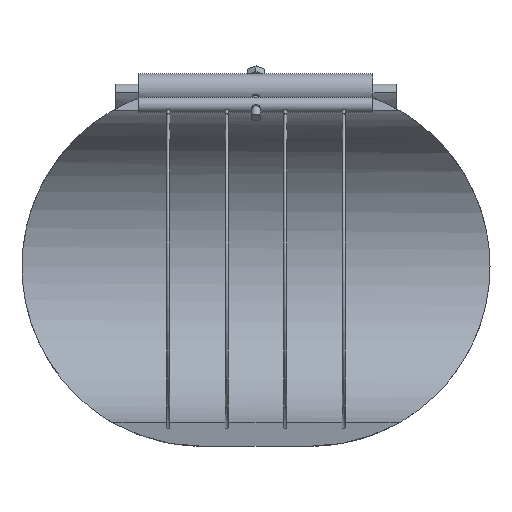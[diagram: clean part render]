
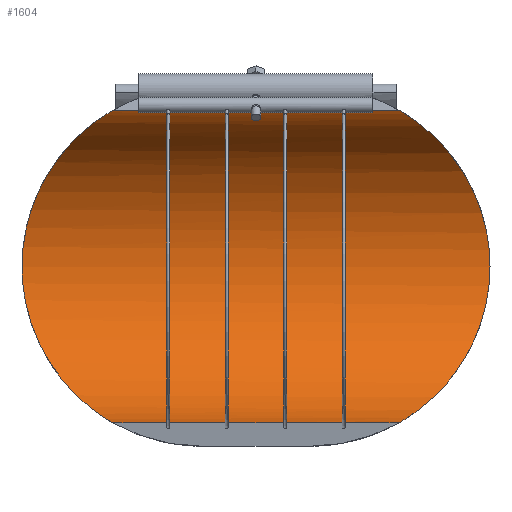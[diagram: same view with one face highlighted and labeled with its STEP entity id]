
A CAD part, front view. The second image highlights one B-rep face of the part: STEP entity #1604.
In plain terms, the highlighted cylindrical face has radius 100 mm (diameter 200 mm), a partial arc.
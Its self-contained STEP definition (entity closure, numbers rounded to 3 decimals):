
#151=FACE_OUTER_BOUND('',#245,.T.);
#245=EDGE_LOOP('',(#1347,#1348,#1349,#1350,#1351,#1352,#1353,#1354,#1355,
#1356));
#332=B_SPLINE_CURVE_WITH_KNOTS('',3,(#3347,#3348,#3349,#3350,#3351,#3352,
#3353,#3354,#3355,#3356,#3357,#3358,#3359,#3360,#3361,#3362,#3363,#3364),
 .UNSPECIFIED.,.F.,.F.,(4,2,2,2,2,2,2,2,4),(35.126,35.467,
37.616,39.764,41.913,43.929,45.945,
47.961,49.977),.UNSPECIFIED.);
#333=B_SPLINE_CURVE_WITH_KNOTS('',3,(#3365,#3366,#3367,#3368,#3369,#3370,
#3371,#3372,#3373,#3374,#3375,#3376,#3377,#3378,#3379,#3380,#3381,#3382),
 .UNSPECIFIED.,.F.,.F.,(4,2,2,2,2,2,2,2,4),(49.977,51.993,
54.009,56.025,58.041,60.19,62.339,
64.487,64.828),.UNSPECIFIED.);
#338=B_SPLINE_CURVE_WITH_KNOTS('',3,(#3494,#3495,#3496,#3497,#3498,#3499,
#3500,#3501,#3502,#3503,#3504,#3505,#3506,#3507,#3508,#3509,#3510,#3511),
 .UNSPECIFIED.,.F.,.F.,(4,2,2,2,2,2,2,2,4),(1.808,2.149,
4.298,6.446,8.595,10.611,12.627,
14.643,16.659),.UNSPECIFIED.);
#339=B_SPLINE_CURVE_WITH_KNOTS('',3,(#3513,#3514,#3515,#3516,#3517,#3518,
#3519,#3520,#3521,#3522,#3523,#3524,#3525,#3526,#3527,#3528,#3529,#3530),
 .UNSPECIFIED.,.F.,.F.,(4,2,2,2,2,2,2,2,4),(16.659,18.675,
20.691,22.707,24.723,26.872,29.021,
31.169,31.51),.UNSPECIFIED.);
#469=LINE('',#2636,#542);
#470=LINE('',#2639,#543);
#471=LINE('',#2642,#544);
#472=LINE('',#2644,#545);
#473=LINE('',#2645,#546);
#517=LINE('',#3572,#590);
#542=VECTOR('',#1901,10.);
#543=VECTOR('',#1904,10.);
#544=VECTOR('',#1907,10.);
#545=VECTOR('',#1910,10.);
#546=VECTOR('',#1911,10.);
#590=VECTOR('',#2163,10.);
#631=VERTEX_POINT('',#2624);
#633=VERTEX_POINT('',#2629);
#635=VERTEX_POINT('',#2633);
#636=VERTEX_POINT('',#2635);
#637=VERTEX_POINT('',#2638);
#638=VERTEX_POINT('',#2641);
#714=VERTEX_POINT('',#3344);
#715=VERTEX_POINT('',#3346);
#720=VERTEX_POINT('',#3493);
#721=VERTEX_POINT('',#3512);
#809=EDGE_CURVE('',#636,#635,#469,.T.);
#811=EDGE_CURVE('',#637,#636,#470,.T.);
#813=EDGE_CURVE('',#638,#637,#471,.T.);
#815=EDGE_CURVE('',#631,#638,#472,.T.);
#816=EDGE_CURVE('',#633,#631,#473,.T.);
#940=EDGE_CURVE('',#714,#715,#332,.T.);
#941=EDGE_CURVE('',#715,#635,#333,.T.);
#946=EDGE_CURVE('',#633,#720,#338,.T.);
#947=EDGE_CURVE('',#720,#721,#339,.T.);
#951=EDGE_CURVE('',#714,#721,#517,.T.);
#1347=ORIENTED_EDGE('',*,*,#946,.F.);
#1348=ORIENTED_EDGE('',*,*,#816,.T.);
#1349=ORIENTED_EDGE('',*,*,#815,.T.);
#1350=ORIENTED_EDGE('',*,*,#813,.T.);
#1351=ORIENTED_EDGE('',*,*,#811,.T.);
#1352=ORIENTED_EDGE('',*,*,#809,.T.);
#1353=ORIENTED_EDGE('',*,*,#941,.F.);
#1354=ORIENTED_EDGE('',*,*,#940,.F.);
#1355=ORIENTED_EDGE('',*,*,#951,.T.);
#1356=ORIENTED_EDGE('',*,*,#947,.F.);
#1533=CYLINDRICAL_SURFACE('',#1776,100.);
#1604=ADVANCED_FACE('',(#151),#1533,.F.);
#1776=AXIS2_PLACEMENT_3D('',#3571,#2161,#2162);
#1901=DIRECTION('',(1.,0.,0.));
#1904=DIRECTION('',(1.,0.,0.));
#1907=DIRECTION('',(1.,0.,0.));
#1910=DIRECTION('',(1.,0.,0.));
#1911=DIRECTION('',(1.,0.,0.));
#2161=DIRECTION('center_axis',(1.,0.,0.));
#2162=DIRECTION('ref_axis',(0.,1.,0.));
#2163=DIRECTION('',(-1.,0.,0.));
#2624=CARTESIAN_POINT('',(-55.313,17.365,-98.481));
#2629=CARTESIAN_POINT('',(-90.173,17.365,-98.481));
#2633=CARTESIAN_POINT('',(90.173,17.365,-98.481));
#2635=CARTESIAN_POINT('',(55.313,17.365,-98.481));
#2636=CARTESIAN_POINT('',(0.,17.365,-98.481));
#2638=CARTESIAN_POINT('',(18.438,17.365,-98.481));
#2639=CARTESIAN_POINT('',(0.,17.365,-98.481));
#2641=CARTESIAN_POINT('',(-18.438,17.365,-98.481));
#2642=CARTESIAN_POINT('',(0.,17.365,-98.481));
#2644=CARTESIAN_POINT('',(0.,17.365,-98.481));
#2645=CARTESIAN_POINT('',(0.,17.365,-98.481));
#3344=CARTESIAN_POINT('',(90.173,17.365,98.481));
#3346=CARTESIAN_POINT('',(147.5,100.,0.));
#3347=CARTESIAN_POINT('Ctrl Pts',(90.173,17.365,98.481));
#3348=CARTESIAN_POINT('Ctrl Pts',(90.499,18.413,98.296));
#3349=CARTESIAN_POINT('Ctrl Pts',(90.849,19.454,98.095));
#3350=CARTESIAN_POINT('Ctrl Pts',(93.564,27.003,96.515));
#3351=CARTESIAN_POINT('Ctrl Pts',(96.759,33.233,94.538));
#3352=CARTESIAN_POINT('Ctrl Pts',(103.825,45.143,89.465));
#3353=CARTESIAN_POINT('Ctrl Pts',(107.696,50.811,86.366));
#3354=CARTESIAN_POINT('Ctrl Pts',(115.377,61.393,79.195));
#3355=CARTESIAN_POINT('Ctrl Pts',(119.189,66.301,75.12));
#3356=CARTESIAN_POINT('Ctrl Pts',(126.02,74.847,66.574));
#3357=CARTESIAN_POINT('Ctrl Pts',(129.315,78.838,61.847));
#3358=CARTESIAN_POINT('Ctrl Pts',(135.364,86.036,51.364));
#3359=CARTESIAN_POINT('Ctrl Pts',(138.117,89.243,45.607));
#3360=CARTESIAN_POINT('Ctrl Pts',(142.671,94.505,33.365));
#3361=CARTESIAN_POINT('Ctrl Pts',(144.476,96.564,26.864));
#3362=CARTESIAN_POINT('Ctrl Pts',(146.891,99.312,13.542));
#3363=CARTESIAN_POINT('Ctrl Pts',(147.5,100.,6.72));
#3364=CARTESIAN_POINT('Ctrl Pts',(147.5,100.,0.));
#3365=CARTESIAN_POINT('Ctrl Pts',(147.5,100.,0.));
#3366=CARTESIAN_POINT('Ctrl Pts',(147.5,100.,-6.72));
#3367=CARTESIAN_POINT('Ctrl Pts',(146.891,99.312,-13.542));
#3368=CARTESIAN_POINT('Ctrl Pts',(144.476,96.564,-26.864));
#3369=CARTESIAN_POINT('Ctrl Pts',(142.671,94.505,-33.365));
#3370=CARTESIAN_POINT('Ctrl Pts',(138.117,89.243,-45.607));
#3371=CARTESIAN_POINT('Ctrl Pts',(135.364,86.036,-51.364));
#3372=CARTESIAN_POINT('Ctrl Pts',(129.315,78.838,-61.847));
#3373=CARTESIAN_POINT('Ctrl Pts',(126.02,74.847,-66.574));
#3374=CARTESIAN_POINT('Ctrl Pts',(119.189,66.301,-75.12));
#3375=CARTESIAN_POINT('Ctrl Pts',(115.377,61.393,-79.195));
#3376=CARTESIAN_POINT('Ctrl Pts',(107.696,50.811,-86.366));
#3377=CARTESIAN_POINT('Ctrl Pts',(103.825,45.143,-89.465));
#3378=CARTESIAN_POINT('Ctrl Pts',(96.759,33.233,-94.538));
#3379=CARTESIAN_POINT('Ctrl Pts',(93.564,27.003,-96.515));
#3380=CARTESIAN_POINT('Ctrl Pts',(90.849,19.454,-98.095));
#3381=CARTESIAN_POINT('Ctrl Pts',(90.499,18.413,-98.296));
#3382=CARTESIAN_POINT('Ctrl Pts',(90.173,17.365,-98.481));
#3493=CARTESIAN_POINT('',(-147.5,100.,0.));
#3494=CARTESIAN_POINT('Ctrl Pts',(-90.173,17.365,-98.481));
#3495=CARTESIAN_POINT('Ctrl Pts',(-90.499,18.413,-98.296));
#3496=CARTESIAN_POINT('Ctrl Pts',(-90.849,19.454,-98.095));
#3497=CARTESIAN_POINT('Ctrl Pts',(-93.564,27.003,-96.515));
#3498=CARTESIAN_POINT('Ctrl Pts',(-96.759,33.233,-94.538));
#3499=CARTESIAN_POINT('Ctrl Pts',(-103.825,45.143,-89.465));
#3500=CARTESIAN_POINT('Ctrl Pts',(-107.696,50.811,-86.366));
#3501=CARTESIAN_POINT('Ctrl Pts',(-115.377,61.393,-79.195));
#3502=CARTESIAN_POINT('Ctrl Pts',(-119.189,66.301,-75.12));
#3503=CARTESIAN_POINT('Ctrl Pts',(-126.02,74.847,-66.574));
#3504=CARTESIAN_POINT('Ctrl Pts',(-129.315,78.838,-61.847));
#3505=CARTESIAN_POINT('Ctrl Pts',(-135.364,86.036,-51.364));
#3506=CARTESIAN_POINT('Ctrl Pts',(-138.117,89.243,-45.607));
#3507=CARTESIAN_POINT('Ctrl Pts',(-142.671,94.505,-33.365));
#3508=CARTESIAN_POINT('Ctrl Pts',(-144.476,96.564,-26.864));
#3509=CARTESIAN_POINT('Ctrl Pts',(-146.891,99.312,-13.542));
#3510=CARTESIAN_POINT('Ctrl Pts',(-147.5,100.,-6.72));
#3511=CARTESIAN_POINT('Ctrl Pts',(-147.5,100.,0.));
#3512=CARTESIAN_POINT('',(-90.173,17.365,98.481));
#3513=CARTESIAN_POINT('Ctrl Pts',(-147.5,100.,0.));
#3514=CARTESIAN_POINT('Ctrl Pts',(-147.5,100.,6.72));
#3515=CARTESIAN_POINT('Ctrl Pts',(-146.891,99.312,13.542));
#3516=CARTESIAN_POINT('Ctrl Pts',(-144.476,96.564,26.864));
#3517=CARTESIAN_POINT('Ctrl Pts',(-142.671,94.505,33.365));
#3518=CARTESIAN_POINT('Ctrl Pts',(-138.117,89.243,45.607));
#3519=CARTESIAN_POINT('Ctrl Pts',(-135.364,86.036,51.364));
#3520=CARTESIAN_POINT('Ctrl Pts',(-129.315,78.838,61.847));
#3521=CARTESIAN_POINT('Ctrl Pts',(-126.02,74.847,66.574));
#3522=CARTESIAN_POINT('Ctrl Pts',(-119.189,66.301,75.12));
#3523=CARTESIAN_POINT('Ctrl Pts',(-115.377,61.393,79.195));
#3524=CARTESIAN_POINT('Ctrl Pts',(-107.696,50.811,86.366));
#3525=CARTESIAN_POINT('Ctrl Pts',(-103.825,45.143,89.465));
#3526=CARTESIAN_POINT('Ctrl Pts',(-96.759,33.233,94.538));
#3527=CARTESIAN_POINT('Ctrl Pts',(-93.564,27.003,96.515));
#3528=CARTESIAN_POINT('Ctrl Pts',(-90.849,19.454,98.095));
#3529=CARTESIAN_POINT('Ctrl Pts',(-90.499,18.413,98.296));
#3530=CARTESIAN_POINT('Ctrl Pts',(-90.173,17.365,98.481));
#3571=CARTESIAN_POINT('Origin',(0.,0.,0.));
#3572=CARTESIAN_POINT('',(0.,17.365,98.481));
